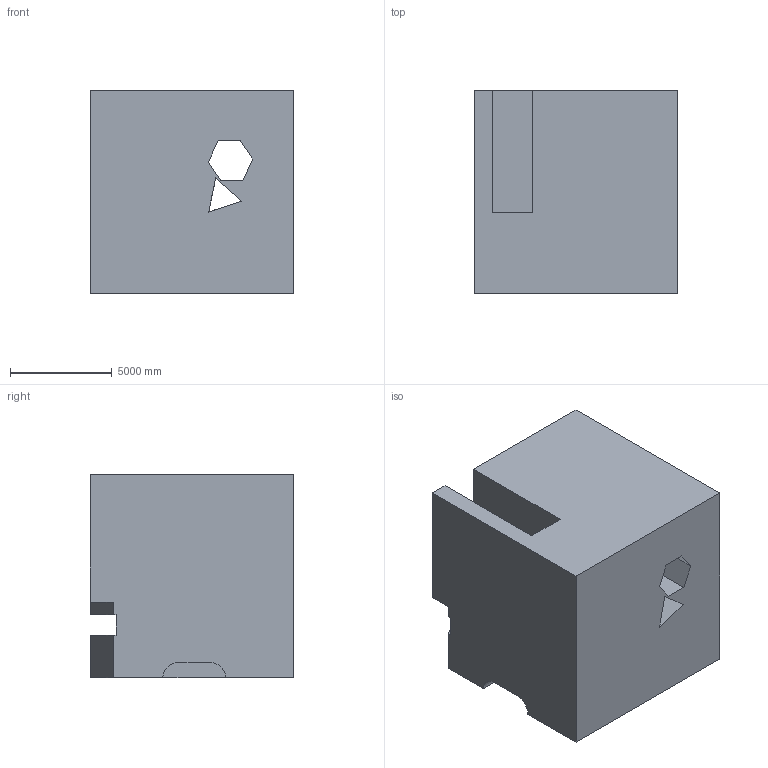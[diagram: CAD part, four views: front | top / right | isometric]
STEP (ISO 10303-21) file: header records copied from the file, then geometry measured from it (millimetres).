
FILE_DESCRIPTION (( 'STEP AP203' ), '1' );
FILE_NAME ('981.STEP', '2022-07-29T14:55:31', ( 'user' ), ( '' ), 'SwSTEP 2.0', 'SolidWorks 2021', '' );
FILE_SCHEMA (( 'CONFIG_CONTROL_DESIGN' ));
Length unit declared in the file: centimetre
Products named in the file (1): 981
Bounding box: 10000 x 10000 x 10000 mm (x, y, z)
Volume: 865364226623.8 mm3; surface area: 783965818.3 mm2
Topology: 1 solids, 1 shells, 49 faces, 147 edges, 98 vertices
Faces by surface type: plane 47, cylinder 2
Entity records: 1714 total; most frequent: CARTESIAN_POINT 295, ORIENTED_EDGE 294, DIRECTION 251, EDGE_CURVE 147, VECTOR 143, LINE 143, VERTEX_POINT 98, AXIS2_PLACEMENT_3D 54
